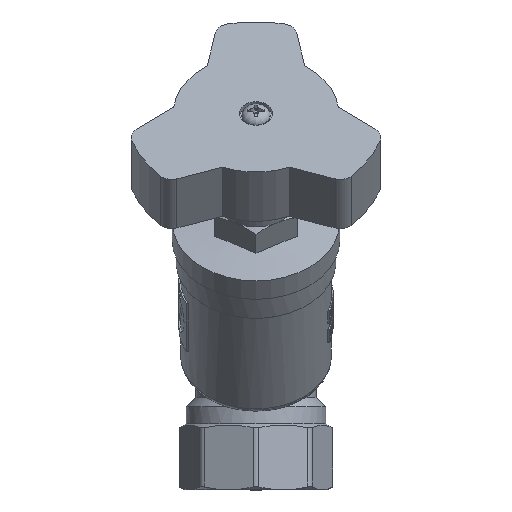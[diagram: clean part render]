
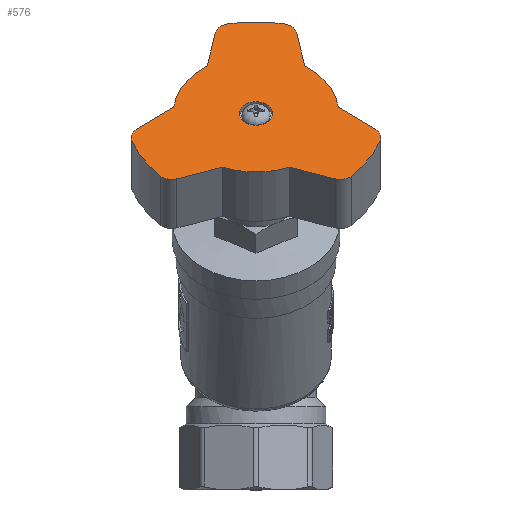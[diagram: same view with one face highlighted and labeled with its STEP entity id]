
A CAD part, top view. The second image highlights one B-rep face of the part: STEP entity #576.
In plain terms, the highlighted planar face has unit normal (0, 0.707, 0.707) as drawn and (0, 1, 0) by its records, which use the part's own axes.
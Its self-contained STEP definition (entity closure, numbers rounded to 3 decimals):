
#576=ADVANCED_FACE('',(#6530,#6532),#6534,.T.);
#6530=FACE_BOUND('',#6531,.T.);
#6531=EDGE_LOOP('',(#9520,#9521,#9522,#9523,#9524,#9525,#9526,#9527,#9528,#9529,
#9530,#9531,#9532,#9533,#9534,#9535,#9536,#9537));
#6532=FACE_BOUND('',#6533,.T.);
#6533=EDGE_LOOP('',(#9538));
#6534=PLANE('',#6535);
#6535=AXIS2_PLACEMENT_3D('',#6536,#6537,#6538);
#6536=CARTESIAN_POINT('',(0.,18.4,0.));
#6537=DIRECTION('',(0.,1.,0.));
#6538=DIRECTION('',(-1.,0.,0.));
#9520=ORIENTED_EDGE('',*,*,#10818,.F.);
#9521=ORIENTED_EDGE('',*,*,#10819,.T.);
#9522=ORIENTED_EDGE('',*,*,#10820,.T.);
#9523=ORIENTED_EDGE('',*,*,#10821,.T.);
#9524=ORIENTED_EDGE('',*,*,#10822,.F.);
#9525=ORIENTED_EDGE('',*,*,#10823,.T.);
#9526=ORIENTED_EDGE('',*,*,#10824,.F.);
#9527=ORIENTED_EDGE('',*,*,#10825,.T.);
#9528=ORIENTED_EDGE('',*,*,#10826,.T.);
#9529=ORIENTED_EDGE('',*,*,#10827,.T.);
#9530=ORIENTED_EDGE('',*,*,#10828,.F.);
#9531=ORIENTED_EDGE('',*,*,#10829,.T.);
#9532=ORIENTED_EDGE('',*,*,#10830,.F.);
#9533=ORIENTED_EDGE('',*,*,#10831,.T.);
#9534=ORIENTED_EDGE('',*,*,#10832,.T.);
#9535=ORIENTED_EDGE('',*,*,#10833,.T.);
#9536=ORIENTED_EDGE('',*,*,#10834,.F.);
#9537=ORIENTED_EDGE('',*,*,#10835,.T.);
#9538=ORIENTED_EDGE('',*,*,#10816,.T.);
#10816=EDGE_CURVE('',#12707,#12707,#12708,.F.);
#10818=EDGE_CURVE('',#12711,#12712,#12713,.F.);
#10819=EDGE_CURVE('',#12711,#12714,#12715,.T.);
#10820=EDGE_CURVE('',#12714,#12716,#12717,.T.);
#10821=EDGE_CURVE('',#12716,#12718,#12719,.T.);
#10822=EDGE_CURVE('',#12720,#12718,#12721,.F.);
#10823=EDGE_CURVE('',#12720,#12722,#12723,.T.);
#10824=EDGE_CURVE('',#12724,#12722,#12725,.F.);
#10825=EDGE_CURVE('',#12724,#12726,#12727,.T.);
#10826=EDGE_CURVE('',#12726,#12728,#12729,.T.);
#10827=EDGE_CURVE('',#12728,#12730,#12731,.T.);
#10828=EDGE_CURVE('',#12732,#12730,#12733,.F.);
#10829=EDGE_CURVE('',#12732,#12734,#12735,.T.);
#10830=EDGE_CURVE('',#12736,#12734,#12737,.F.);
#10831=EDGE_CURVE('',#12736,#12738,#12739,.T.);
#10832=EDGE_CURVE('',#12738,#12740,#12741,.T.);
#10833=EDGE_CURVE('',#12740,#12742,#12743,.T.);
#10834=EDGE_CURVE('',#12744,#12742,#12745,.F.);
#10835=EDGE_CURVE('',#12744,#12712,#12746,.T.);
#12707=VERTEX_POINT('',#26232);
#12708=CIRCLE('',#26233,4.45);
#12711=VERTEX_POINT('',#26242);
#12712=VERTEX_POINT('',#26243);
#12713=CIRCLE('',#26244,4.);
#12714=VERTEX_POINT('',#26248);
#12715=LINE('',#26249,#26250);
#12716=VERTEX_POINT('',#26252);
#12717=CIRCLE('',#26253,22.);
#12718=VERTEX_POINT('',#26257);
#12719=LINE('',#26258,#26259);
#12720=VERTEX_POINT('',#26261);
#12721=CIRCLE('',#26262,4.);
#12722=VERTEX_POINT('',#26266);
#12723=CIRCLE('',#26267,34.5);
#12724=VERTEX_POINT('',#26271);
#12725=CIRCLE('',#26272,4.);
#12726=VERTEX_POINT('',#26276);
#12727=LINE('',#26277,#26278);
#12728=VERTEX_POINT('',#26280);
#12729=CIRCLE('',#26281,22.);
#12730=VERTEX_POINT('',#26285);
#12731=LINE('',#26286,#26287);
#12732=VERTEX_POINT('',#26289);
#12733=CIRCLE('',#26290,4.);
#12734=VERTEX_POINT('',#26294);
#12735=CIRCLE('',#26295,34.5);
#12736=VERTEX_POINT('',#26299);
#12737=CIRCLE('',#26300,4.);
#12738=VERTEX_POINT('',#26304);
#12739=LINE('',#26305,#26306);
#12740=VERTEX_POINT('',#26308);
#12741=CIRCLE('',#26309,22.);
#12742=VERTEX_POINT('',#26313);
#12743=LINE('',#26314,#26315);
#12744=VERTEX_POINT('',#26317);
#12745=CIRCLE('',#26318,4.);
#12746=CIRCLE('',#26322,34.5);
#26232=CARTESIAN_POINT('',(0.,18.4,-4.45));
#26233=AXIS2_PLACEMENT_3D('',#26234,#26235,#26236);
#26234=CARTESIAN_POINT('',(0.,18.4,0.));
#26235=DIRECTION('',(0.,1.,0.));
#26236=DIRECTION('',(0.,0.,-1.));
#26242=CARTESIAN_POINT('',(20.963,18.4,-24.534));
#26243=CARTESIAN_POINT('',(25.259,18.4,-23.499));
#26244=AXIS2_PLACEMENT_3D('',#26245,#26246,#26247);
#26245=CARTESIAN_POINT('',(22.331,18.4,-20.775));
#26246=DIRECTION('',(0.,1.,0.));
#26247=DIRECTION('',(0.732,0.,-0.681));
#26248=CARTESIAN_POINT('',(8.87,18.4,-20.132));
#26249=CARTESIAN_POINT('',(20.963,18.4,-24.534));
#26250=VECTOR('',#26251,1.);
#26251=DIRECTION('',(-0.94,0.,0.342));
#26252=CARTESIAN_POINT('',(-8.87,18.4,-20.132));
#26253=AXIS2_PLACEMENT_3D('',#26254,#26255,#26256);
#26254=CARTESIAN_POINT('',(0.,18.4,0.));
#26255=DIRECTION('',(0.,1.,0.));
#26256=DIRECTION('',(0.403,0.,-0.915));
#26257=CARTESIAN_POINT('',(-20.963,18.4,-24.534));
#26258=CARTESIAN_POINT('',(-8.87,18.4,-20.132));
#26259=VECTOR('',#26260,1.);
#26260=DIRECTION('',(-0.94,0.,-0.342));
#26261=CARTESIAN_POINT('',(-25.259,18.4,-23.499));
#26262=AXIS2_PLACEMENT_3D('',#26263,#26264,#26265);
#26263=CARTESIAN_POINT('',(-22.331,18.4,-20.775));
#26264=DIRECTION('',(0.,1.,0.));
#26265=DIRECTION('',(0.342,0.,-0.94));
#26266=CARTESIAN_POINT('',(-32.981,18.4,-10.125));
#26267=AXIS2_PLACEMENT_3D('',#26268,#26269,#26270);
#26268=CARTESIAN_POINT('',(0.,18.4,0.));
#26269=DIRECTION('',(0.,1.,0.));
#26270=DIRECTION('',(-0.732,0.,-0.681));
#26271=CARTESIAN_POINT('',(-31.728,18.4,-5.887));
#26272=AXIS2_PLACEMENT_3D('',#26273,#26274,#26275);
#26273=CARTESIAN_POINT('',(-29.157,18.4,-8.951));
#26274=DIRECTION('',(0.,1.,0.));
#26275=DIRECTION('',(-0.956,0.,-0.293));
#26276=CARTESIAN_POINT('',(-21.87,18.4,2.384));
#26277=CARTESIAN_POINT('',(-31.728,18.4,-5.887));
#26278=VECTOR('',#26279,1.);
#26279=DIRECTION('',(0.766,0.,0.643));
#26280=CARTESIAN_POINT('',(-13.,18.4,17.748));
#26281=AXIS2_PLACEMENT_3D('',#26282,#26283,#26284);
#26282=CARTESIAN_POINT('',(0.,18.4,0.));
#26283=DIRECTION('',(0.,1.,0.));
#26284=DIRECTION('',(-0.994,0.,0.108));
#26285=CARTESIAN_POINT('',(-10.765,18.4,30.421));
#26286=CARTESIAN_POINT('',(-13.,18.4,17.748));
#26287=VECTOR('',#26288,1.);
#26288=DIRECTION('',(0.174,0.,0.985));
#26289=CARTESIAN_POINT('',(-7.721,18.4,33.625));
#26290=AXIS2_PLACEMENT_3D('',#26291,#26292,#26293);
#26291=CARTESIAN_POINT('',(-6.826,18.4,29.726));
#26292=DIRECTION('',(0.,1.,0.));
#26293=DIRECTION('',(-0.985,0.,0.174));
#26294=CARTESIAN_POINT('',(7.721,18.4,33.625));
#26295=AXIS2_PLACEMENT_3D('',#26296,#26297,#26298);
#26296=CARTESIAN_POINT('',(0.,18.4,0.));
#26297=DIRECTION('',(0.,1.,0.));
#26298=DIRECTION('',(-0.224,0.,0.975));
#26299=CARTESIAN_POINT('',(10.765,18.4,30.421));
#26300=AXIS2_PLACEMENT_3D('',#26301,#26302,#26303);
#26301=CARTESIAN_POINT('',(6.826,18.4,29.726));
#26302=DIRECTION('',(0.,1.,0.));
#26303=DIRECTION('',(0.224,0.,0.975));
#26304=CARTESIAN_POINT('',(13.,18.4,17.748));
#26305=CARTESIAN_POINT('',(10.765,18.4,30.421));
#26306=VECTOR('',#26307,1.);
#26307=DIRECTION('',(0.174,0.,-0.985));
#26308=CARTESIAN_POINT('',(21.87,18.4,2.384));
#26309=AXIS2_PLACEMENT_3D('',#26310,#26311,#26312);
#26310=CARTESIAN_POINT('',(0.,18.4,0.));
#26311=DIRECTION('',(0.,1.,0.));
#26312=DIRECTION('',(0.591,0.,0.807));
#26313=CARTESIAN_POINT('',(31.728,18.4,-5.887));
#26314=CARTESIAN_POINT('',(21.87,18.4,2.384));
#26315=VECTOR('',#26316,1.);
#26316=DIRECTION('',(0.766,0.,-0.643));
#26317=CARTESIAN_POINT('',(32.981,18.4,-10.125));
#26318=AXIS2_PLACEMENT_3D('',#26319,#26320,#26321);
#26319=CARTESIAN_POINT('',(29.157,18.4,-8.951));
#26320=DIRECTION('',(0.,1.,0.));
#26321=DIRECTION('',(0.643,0.,0.766));
#26322=AXIS2_PLACEMENT_3D('',#26323,#26324,#26325);
#26323=CARTESIAN_POINT('',(0.,18.4,0.));
#26324=DIRECTION('',(0.,1.,0.));
#26325=DIRECTION('',(0.956,0.,-0.293));
